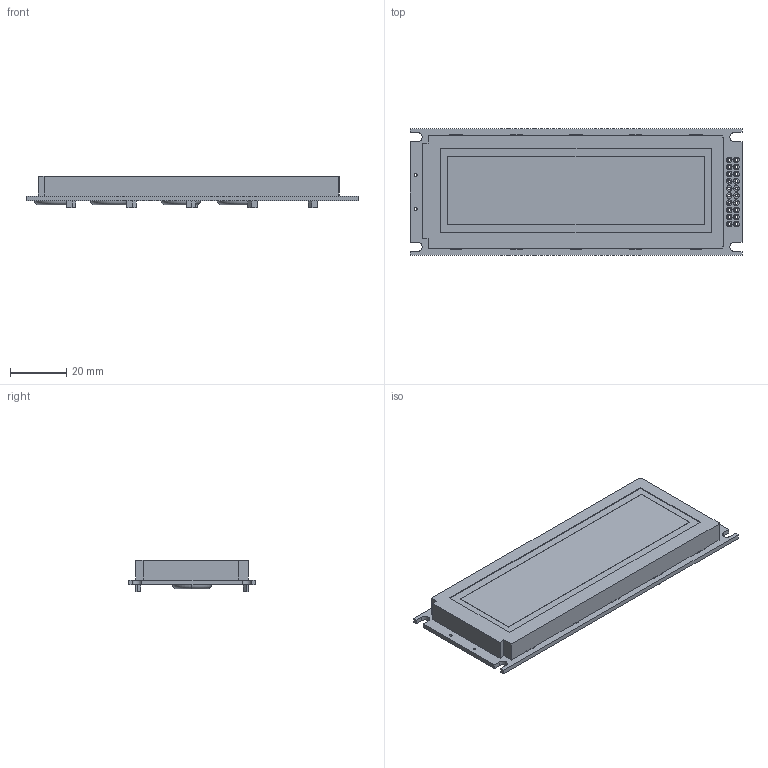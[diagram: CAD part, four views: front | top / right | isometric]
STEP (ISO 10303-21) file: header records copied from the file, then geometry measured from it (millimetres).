
FILE_DESCRIPTION (( 'STEP AP214' ), '1' );
FILE_NAME ('NHD-24064CZ-FSW-GBW.STEP', '2017-10-19T14:40:17', ( '' ), ( '' ), 'SwSTEP 2.0', 'SolidWorks 2017', '' );
FILE_SCHEMA (( 'AUTOMOTIVE_DESIGN' ));
Length unit declared in the file: millimetre
Products named in the file (1): NHD-24064CZ-FSW-GBW
Bounding box: 118 x 45 x 11.1 mm (x, y, z)
Volume: 38534.9 mm3; surface area: 18665.9 mm2
Topology: 22 solids, 22 shells, 404 faces, 1042 edges, 678 vertices
Faces by surface type: plane 226, cylinder 170, torus 8
Entity records: 17205 total; most frequent: DIRECTION 2216, CARTESIAN_POINT 2125, ORIENTED_EDGE 2084, EDGE_CURVE 1042, AXIS2_PLACEMENT_3D 769, VECTOR 678, LINE 678, VERTEX_POINT 678
